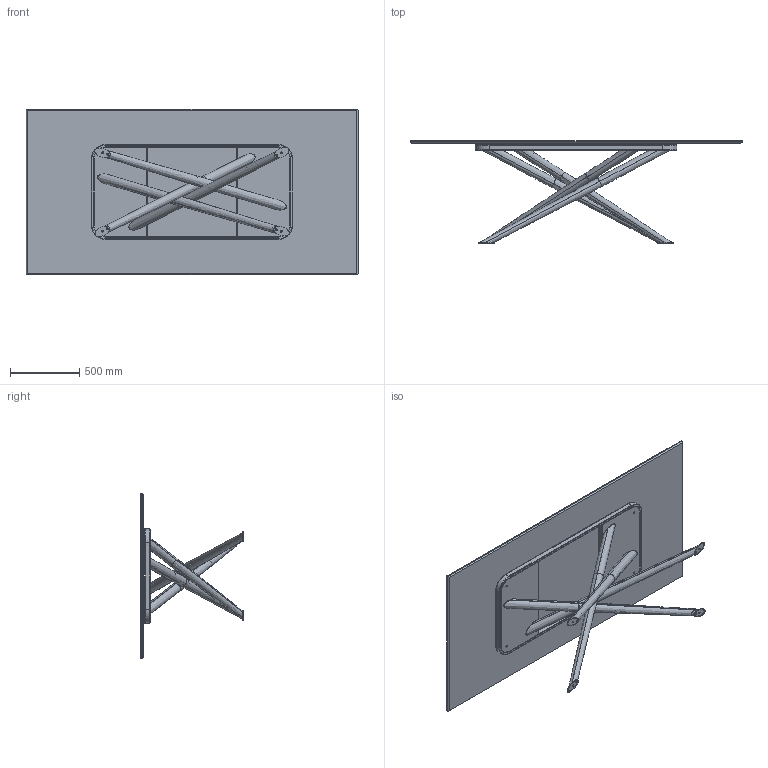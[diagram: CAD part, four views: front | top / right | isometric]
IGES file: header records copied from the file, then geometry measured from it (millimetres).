
Start section: SolidWorks IGES file using analytic representation for surfaces
Global section: file name: Y:\eforma\TECNICO\SOLIDWORKS\E-FORMA\1-TAVOLI\BALY\02 parts\BA22C.IGS; native system: SolidWorks 2022; preprocessor: SolidWorks 2022; author: eforma.tech; date: 240808.082254; units: millimetre
Bounding box: 2390 x 735 x 1190 mm (x, y, z)
Volume: 51078093.9 mm3; surface area: 15685839.5 mm2
Topology: 28 solids, 28 shells, 626 faces, 1296 edges, 720 vertices
Faces by surface type: revolution 308, plane 300, bspline 18
